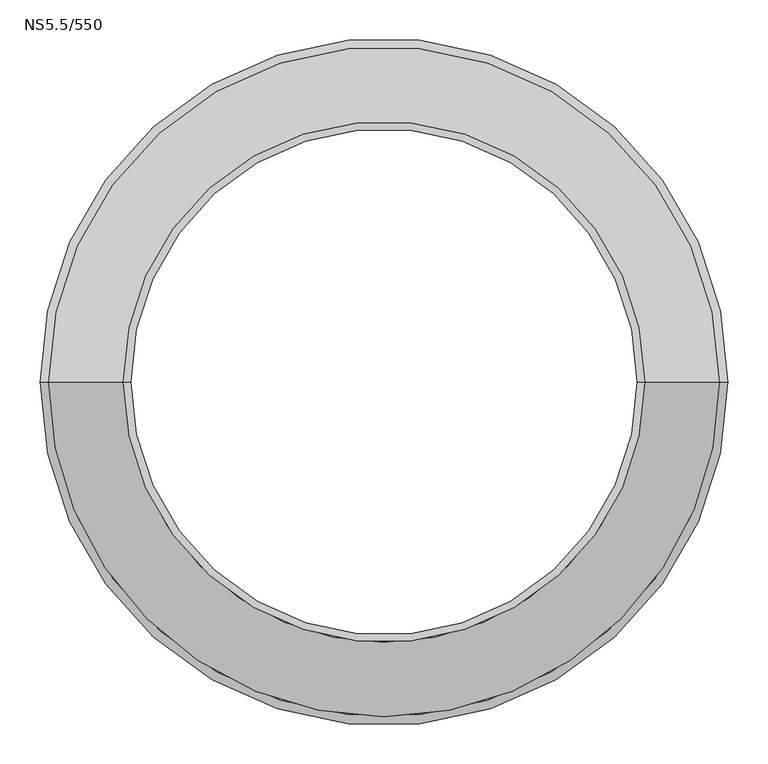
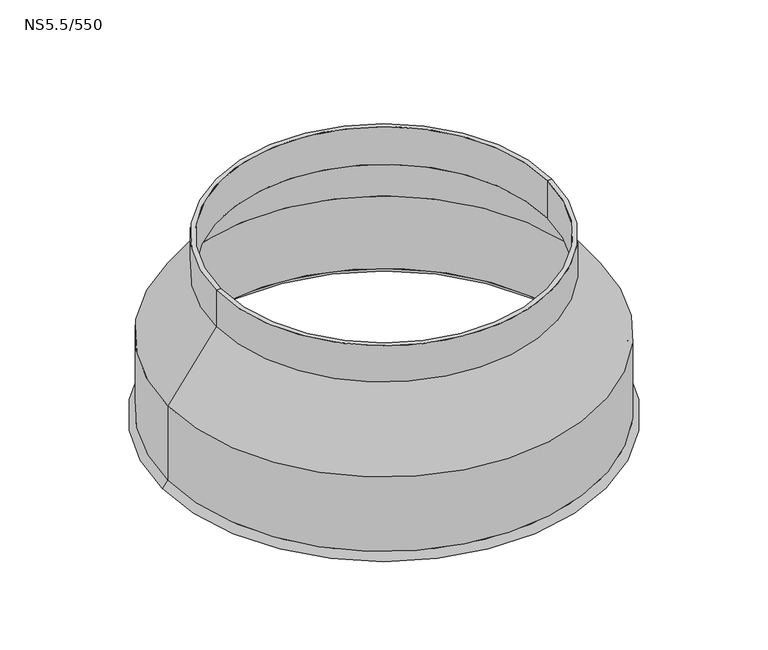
"""IFC4 building model written with IfcOpenShell, lengths in millimetres: proxy geometry, ME_PE_UN_Lipumax-PSD_ACO : NS5.5/550."""

from ifc_helpers import new_model, si_unit, frame, origin, place, context, project, spatial, polyline, circle_curve, source, transform, mapped, element, save
from ifc_brep_helpers import plane_surface, cylinder_surface, revolved_surface, advanced_brep


def ns5_5_550_801f7e5f(model_context):
    return source(origin(), model_context, "Body", "AdvancedBrep", [
        advanced_brep(
        [(-316.0, 0.0, -431.9538795), (316.0, 0.0, -431.9538795), (316.0, 0.0, -355.0), (-316.0, 0.0, -355.0), (-409.0, 0.0, -561.854905), (409.0, 0.0, -561.854905), (-409.0, 0.0, -710.271316), (409.0, 0.0, -710.271316), (-418.0, 0.0, -558.9653211), (418.0, 0.0, -558.9653211), (418.0, 0.0, -710.8907105), (-418.0, 0.0, -710.8907105), (-325.0, 0.0, -429.0642956), (325.0, 0.0, -429.0642956), (-325.0, 0.0, -355.0), (325.0, 0.0, -355.0), (-420.5197337, 0.0, -724.0), (420.5197337, 0.0, -724.0), (-429.0, 0.0, -724.0), (429.0, 0.0, -724.0)],
        [
            (0, 1, circle_curve(frame((0.0, 0.0, -431.9538795), z_axis=(0.0, 0.0, -1.0), x_axis=(1.0, 0.0, 0.0)), 316.0)),
            (1, 2),
            (2, 3, circle_curve(frame((0.0, 0.0, -355.0), z_axis=(0.0, 0.0, 1.0), x_axis=(1.0, 0.0, 0.0)), 316.0)),
            (3, 0),
            (1, 0, circle_curve(frame((0.0, 0.0, -431.9538795), z_axis=(0.0, 0.0, -1.0), x_axis=(1.0, 0.0, 0.0)), 316.0)),
            (3, 2, circle_curve(frame((0.0, 0.0, -355.0), z_axis=(0.0, 0.0, 1.0), x_axis=(1.0, 0.0, 0.0)), 316.0)),
            (4, 5, circle_curve(frame((0.0, 0.0, -561.854905), z_axis=(0.0, 0.0, -1.0), x_axis=(1.0, 0.0, 0.0)), 409.0)),
            (5, 1),
            (0, 4),
            (5, 4, circle_curve(frame((0.0, 0.0, -561.854905), z_axis=(0.0, 0.0, -1.0), x_axis=(1.0, 0.0, 0.0)), 409.0)),
            (6, 7, circle_curve(frame((0.0, 0.0, -710.271316), z_axis=(0.0, 0.0, -1.0), x_axis=(1.0, 0.0, 0.0)), 409.0)),
            (7, 5),
            (4, 6),
            (7, 6, circle_curve(frame((0.0, 0.0, -710.271316), z_axis=(0.0, 0.0, -1.0), x_axis=(1.0, 0.0, 0.0)), 409.0)),
            (8, 9, circle_curve(frame((0.0, 0.0, -558.9653211), z_axis=(0.0, 0.0, -1.0), x_axis=(1.0, 0.0, 0.0)), 418.0)),
            (9, 10),
            (10, 11, circle_curve(frame((0.0, 0.0, -710.8907105), z_axis=(0.0, 0.0, 1.0), x_axis=(1.0, 0.0, 0.0)), 418.0)),
            (11, 8),
            (9, 8, circle_curve(frame((0.0, 0.0, -558.9653211), z_axis=(0.0, 0.0, -1.0), x_axis=(1.0, 0.0, 0.0)), 418.0)),
            (11, 10, circle_curve(frame((0.0, 0.0, -710.8907105), z_axis=(0.0, 0.0, 1.0), x_axis=(1.0, 0.0, 0.0)), 418.0)),
            (12, 13, circle_curve(frame((0.0, 0.0, -429.0642956), z_axis=(0.0, 0.0, -1.0), x_axis=(1.0, 0.0, 0.0)), 325.0)),
            (13, 9),
            (8, 12),
            (13, 12, circle_curve(frame((0.0, 0.0, -429.0642956), z_axis=(0.0, 0.0, -1.0), x_axis=(1.0, 0.0, 0.0)), 325.0)),
            (14, 15, circle_curve(frame((0.0, 0.0, -355.0), z_axis=(0.0, 0.0, -1.0), x_axis=(1.0, 0.0, 0.0)), 325.0)),
            (15, 13),
            (12, 14),
            (15, 14, circle_curve(frame((0.0, 0.0, -355.0), z_axis=(0.0, 0.0, -1.0), x_axis=(1.0, 0.0, 0.0)), 325.0)),
            (16, 17, circle_curve(frame((0.0, 0.0, -724.0), z_axis=(0.0, 0.0, -1.0), x_axis=(1.0, 0.0, 0.0)), 420.5197337)),
            (17, 7),
            (6, 16),
            (17, 16, circle_curve(frame((0.0, 0.0, -724.0), z_axis=(0.0, 0.0, -1.0), x_axis=(1.0, 0.0, 0.0)), 420.5197337)),
            (18, 19, circle_curve(frame((0.0, 0.0, -724.0), z_axis=(0.0, 0.0, -1.0), x_axis=(1.0, 0.0, 0.0)), 429.0)),
            (19, 17),
            (16, 18),
            (19, 18, circle_curve(frame((0.0, 0.0, -724.0), z_axis=(0.0, 0.0, -1.0), x_axis=(1.0, 0.0, 0.0)), 429.0)),
            (10, 19),
            (18, 11),
            (2, 15),
            (14, 3),
        ],
        [
            revolved_surface(polyline([(316.0, 0.0, -355.0), (316.0, 0.0, -431.9538795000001)]), (0.0, 0.0, 307.0), (0.0, 0.0, 1.0)),
            revolved_surface(polyline([(316.0, 0.0, -431.9538795), (409.0, 0.0, -561.854905)]), (0.0, 0.0, 307.0), (0.0, 0.0, 1.0)),
            revolved_surface(polyline([(409.0, 0.0, -561.854905), (409.0, 0.0, -710.271316)]), (0.0, 0.0, 307.0), (0.0, 0.0, 1.0)),
            cylinder_surface(frame((0.0, 0.0, 307.0), z_axis=(0.0, 0.0, 1.0), x_axis=(1.0, 0.0, 0.0)), 418.0),
            revolved_surface(polyline([(418.0, 0.0, -558.9653211), (325.0, 0.0, -429.0642956)]), (0.0, 0.0, 307.0), (0.0, 0.0, 1.0)),
            cylinder_surface(frame((0.0, 0.0, 307.0), z_axis=(0.0, 0.0, 1.0), x_axis=(1.0, 0.0, 0.0)), 325.0),
            revolved_surface(polyline([(409.0, 0.0, -710.271316), (420.5197337, 0.0, -724.0)]), (0.0, 0.0, 307.0), (0.0, 0.0, 1.0)),
            plane_surface(frame((0.0, 0.0, -724.0), z_axis=(0.0, 0.0, -1.0), x_axis=(1.0, 0.0, 0.0))),
            revolved_surface(polyline([(429.0, 0.0, -724.0), (418.0, 0.0, -710.8907105)]), (0.0, 0.0, 307.0), (0.0, 0.0, 1.0)),
            plane_surface(frame((0.0, 0.0, -355.0), z_axis=(0.0, 0.0, 1.0), x_axis=(1.0, 0.0, 0.0))),
        ],
        [
            (0, [[1, 2, 3, 4]]),
            (0, [[5, -4, 6, -2]]),
            (1, [[7, 8, -1, 9]]),
            (1, [[10, -9, -5, -8]]),
            (2, [[11, 12, -7, 13]]),
            (2, [[14, -13, -10, -12]]),
            (3, [[15, 16, 17, 18]]),
            (3, [[19, -18, 20, -16]]),
            (4, [[21, 22, -15, 23]]),
            (4, [[24, -23, -19, -22]]),
            (5, [[25, 26, -21, 27]]),
            (5, [[28, -27, -24, -26]]),
            (6, [[29, 30, -11, 31]]),
            (6, [[32, -31, -14, -30]]),
            (7, [[33, 34, -29, 35]]),
            (7, [[36, -35, -32, -34]]),
            (8, [[-17, 37, -33, 38]]),
            (8, [[-20, -38, -36, -37]]),
            (9, [[-3, 39, -25, 40]]),
            (9, [[-6, -40, -28, -39]]),
        ],
    ),
    ])


if __name__ == "__main__":
    model = new_model("IFC4")
    model_context = context("Model", 3, world=origin())
    ifc_project = project(units=[si_unit("LENGTHUNIT", "METRE", prefix="MILLI")], contexts=[model_context])
    site = spatial("IfcSite", under=ifc_project)
    building = spatial("IfcBuilding", under=site)
    placement = place(None, origin())
    ns5_5_550_shape = ns5_5_550_801f7e5f(model_context)
    element("IfcBuildingElementProxy", 1, Name="ME_PE_UN_Lipumax-PSD_ACO : NS5.5/550", ObjectType="ME_PE_UN_Lipumax-PSD_ACO : NS5.5/550", at=placement, inside=building, context=model_context, shape_type="MappedRepresentation", body=[
        mapped(ns5_5_550_shape, transform((0.0, 0.0, 0.0), x_axis=(1.0, 0.0, 0.0), y_axis=(0.0, 1.0, 0.0), z_axis=(0.0, 0.0, 1.0))),
    ])
    save(model, "model.ifc")
